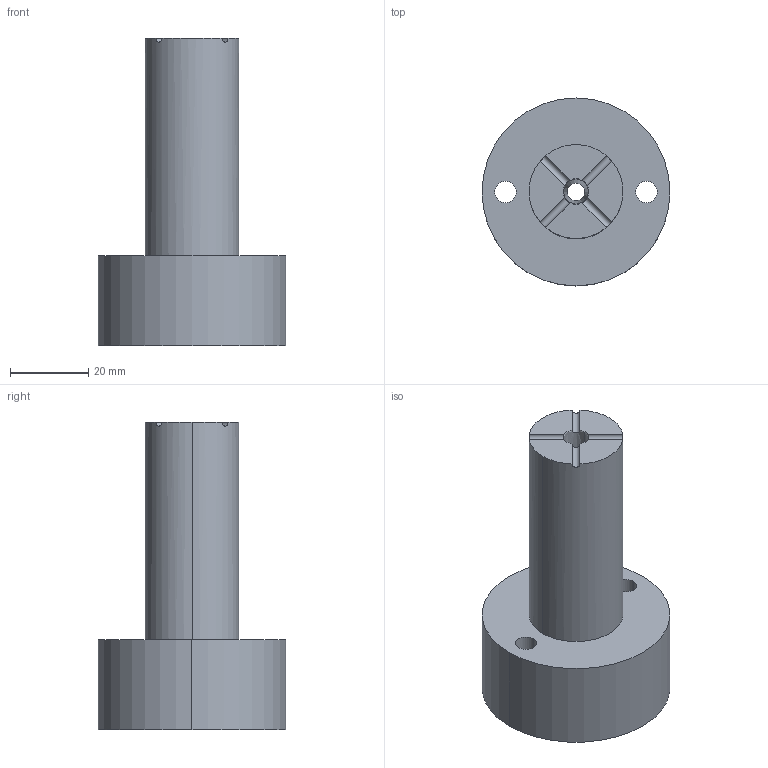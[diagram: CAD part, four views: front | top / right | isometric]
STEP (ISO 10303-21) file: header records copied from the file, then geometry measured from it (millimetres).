
FILE_DESCRIPTION (( 'STEP AP203' ), '1' );
FILE_NAME ('042 buse.STEP', '2021-10-27T18:30:58', ( '' ), ( '' ), 'SwSTEP 2.0', 'SolidWorks 2019', '' );
FILE_SCHEMA (( 'CONFIG_CONTROL_DESIGN' ));
Length unit declared in the file: millimetre
Products named in the file (1): 042 buse
Bounding box: 48 x 48 x 78.5 mm (x, y, z)
Volume: 60853.8 mm3; surface area: 13528.1 mm2
Topology: 1 solids, 1 shells, 30 faces, 74 edges, 48 vertices
Faces by surface type: cylinder 18, plane 8, sphere 2, cone 2
Entity records: 1109 total; most frequent: CARTESIAN_POINT 281, DIRECTION 170, ORIENTED_EDGE 148, EDGE_CURVE 74, AXIS2_PLACEMENT_3D 73, VERTEX_POINT 48, CIRCLE 42, EDGE_LOOP 38
